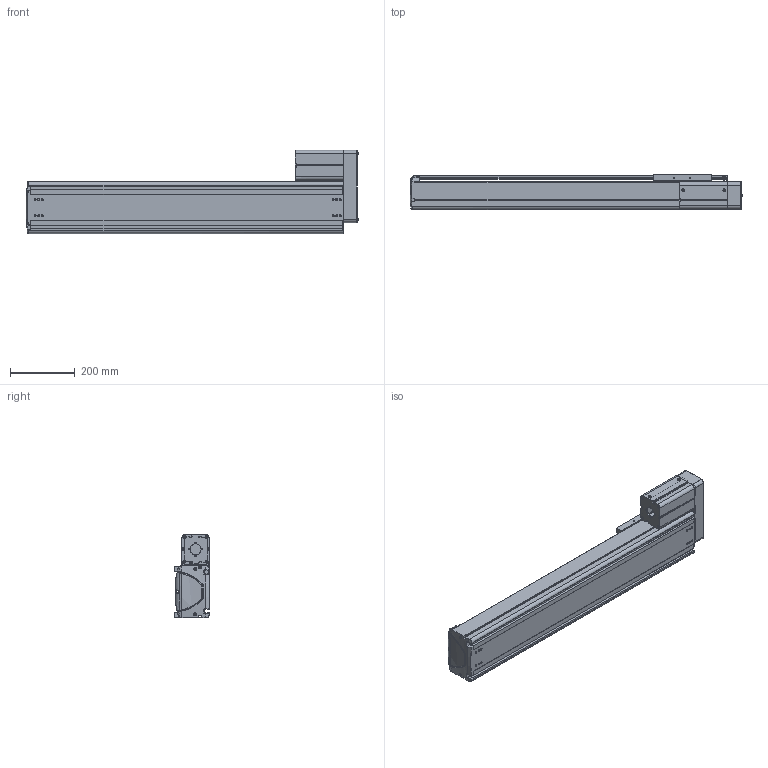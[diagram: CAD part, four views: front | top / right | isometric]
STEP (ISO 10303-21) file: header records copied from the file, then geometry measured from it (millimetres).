
FILE_DESCRIPTION((''),'2;1');
FILE_NAME('BE50F-UR-M_N-70_IGS_PRT','2017-06-18T',(' '),(''),'PRO/ENGINEER BY PARAMETRIC TECHNOLOGY CORPORATION, 2015030','PRO/ENGINEER BY PARAMETRIC TECHNOLOGY CORPORATION, 2015030','');
FILE_SCHEMA(('CONFIG_CONTROL_DESIGN'));
Length unit declared in the file: millimetre
Products named in the file (1): BE50F-UR-M_N-70_IGS_PRT
Bounding box: 1025.88 x 110 x 257 mm (x, y, z)
Volume: 4918183.7 mm3; surface area: 1809802.9 mm2
Topology: 2 solids, 121 shells, 2177 faces, 5913 edges, 3857 vertices
Faces by surface type: plane 1006, cylinder 911, cone 121, torus 59, bspline 48, sphere 32
Entity records: 71939 total; most frequent: CARTESIAN_POINT 16366, DIRECTION 11650, ORIENTED_EDGE 11296, EDGE_CURVE 5872, AXIS2_PLACEMENT_3D 4142, VERTEX_POINT 3852, VECTOR 3366, LINE 3366
